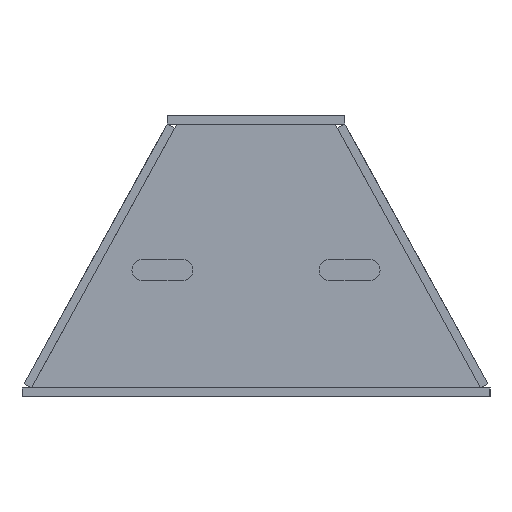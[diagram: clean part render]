
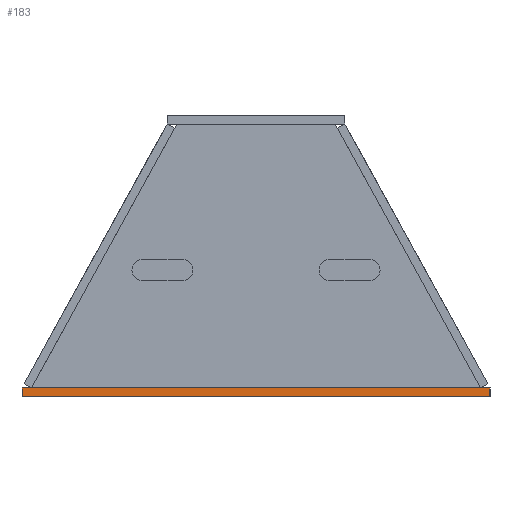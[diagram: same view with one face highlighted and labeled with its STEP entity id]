
A CAD part, left-side view. The second image highlights one B-rep face of the part: STEP entity #183.
In plain terms, the highlighted planar face has unit normal (-1, 0, 0).
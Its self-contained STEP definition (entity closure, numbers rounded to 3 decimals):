
#67 = EDGE_CURVE('',#68,#70,#72,.T.);
#68 = VERTEX_POINT('',#69);
#69 = CARTESIAN_POINT('',(-600.,-500.,0.));
#70 = VERTEX_POINT('',#71);
#71 = CARTESIAN_POINT('',(-600.,-500.,18.));
#72 = SURFACE_CURVE('',#73,(#77,#89),.PCURVE_S1.);
#73 = LINE('',#74,#75);
#74 = CARTESIAN_POINT('',(-600.,-500.,0.));
#75 = VECTOR('',#76,1.);
#76 = DIRECTION('',(0.,0.,1.));
#77 = PCURVE('',#78,#83);
#78 = PLANE('',#79);
#79 = AXIS2_PLACEMENT_3D('',#80,#81,#82);
#80 = CARTESIAN_POINT('',(-600.,-500.,0.));
#81 = DIRECTION('',(0.,1.,0.));
#82 = DIRECTION('',(1.,0.,0.));
#83 = DEFINITIONAL_REPRESENTATION('',(#84),#88);
#84 = LINE('',#85,#86);
#85 = CARTESIAN_POINT('',(0.,0.));
#86 = VECTOR('',#87,1.);
#87 = DIRECTION('',(0.,-1.));
#88 = ( GEOMETRIC_REPRESENTATION_CONTEXT(2) 
PARAMETRIC_REPRESENTATION_CONTEXT() REPRESENTATION_CONTEXT('2D SPACE',''
  ) );
#89 = PCURVE('',#90,#95);
#90 = PLANE('',#91);
#91 = AXIS2_PLACEMENT_3D('',#92,#93,#94);
#92 = CARTESIAN_POINT('',(-600.,500.,0.));
#93 = DIRECTION('',(1.,0.,-0.));
#94 = DIRECTION('',(0.,-1.,0.));
#95 = DEFINITIONAL_REPRESENTATION('',(#96),#100);
#96 = LINE('',#97,#98);
#97 = CARTESIAN_POINT('',(1000.,0.));
#98 = VECTOR('',#99,1.);
#99 = DIRECTION('',(0.,-1.));
#100 = ( GEOMETRIC_REPRESENTATION_CONTEXT(2) 
PARAMETRIC_REPRESENTATION_CONTEXT() REPRESENTATION_CONTEXT('2D SPACE',''
  ) );
#118 = PLANE('',#119);
#119 = AXIS2_PLACEMENT_3D('',#120,#121,#122);
#120 = CARTESIAN_POINT('',(0.,0.,18.));
#121 = DIRECTION('',(0.,0.,1.));
#122 = DIRECTION('',(1.,0.,-0.));
#172 = PLANE('',#173);
#173 = AXIS2_PLACEMENT_3D('',#174,#175,#176);
#174 = CARTESIAN_POINT('',(0.,0.,0.));
#175 = DIRECTION('',(0.,0.,1.));
#176 = DIRECTION('',(1.,0.,-0.));
#183 = ADVANCED_FACE('',(#184),#90,.F.);
#184 = FACE_BOUND('',#185,.F.);
#185 = EDGE_LOOP('',(#186,#216,#237,#238));
#186 = ORIENTED_EDGE('',*,*,#187,.T.);
#187 = EDGE_CURVE('',#188,#190,#192,.T.);
#188 = VERTEX_POINT('',#189);
#189 = CARTESIAN_POINT('',(-600.,500.,0.));
#190 = VERTEX_POINT('',#191);
#191 = CARTESIAN_POINT('',(-600.,500.,18.));
#192 = SURFACE_CURVE('',#193,(#197,#204),.PCURVE_S1.);
#193 = LINE('',#194,#195);
#194 = CARTESIAN_POINT('',(-600.,500.,0.));
#195 = VECTOR('',#196,1.);
#196 = DIRECTION('',(0.,0.,1.));
#197 = PCURVE('',#90,#198);
#198 = DEFINITIONAL_REPRESENTATION('',(#199),#203);
#199 = LINE('',#200,#201);
#200 = CARTESIAN_POINT('',(0.,0.));
#201 = VECTOR('',#202,1.);
#202 = DIRECTION('',(0.,-1.));
#203 = ( GEOMETRIC_REPRESENTATION_CONTEXT(2) 
PARAMETRIC_REPRESENTATION_CONTEXT() REPRESENTATION_CONTEXT('2D SPACE',''
  ) );
#204 = PCURVE('',#205,#210);
#205 = PLANE('',#206);
#206 = AXIS2_PLACEMENT_3D('',#207,#208,#209);
#207 = CARTESIAN_POINT('',(600.,500.,0.));
#208 = DIRECTION('',(0.,-1.,0.));
#209 = DIRECTION('',(-1.,0.,0.));
#210 = DEFINITIONAL_REPRESENTATION('',(#211),#215);
#211 = LINE('',#212,#213);
#212 = CARTESIAN_POINT('',(1200.,0.));
#213 = VECTOR('',#214,1.);
#214 = DIRECTION('',(0.,-1.));
#215 = ( GEOMETRIC_REPRESENTATION_CONTEXT(2) 
PARAMETRIC_REPRESENTATION_CONTEXT() REPRESENTATION_CONTEXT('2D SPACE',''
  ) );
#216 = ORIENTED_EDGE('',*,*,#217,.T.);
#217 = EDGE_CURVE('',#190,#70,#218,.T.);
#218 = SURFACE_CURVE('',#219,(#223,#230),.PCURVE_S1.);
#219 = LINE('',#220,#221);
#220 = CARTESIAN_POINT('',(-600.,500.,18.));
#221 = VECTOR('',#222,1.);
#222 = DIRECTION('',(0.,-1.,0.));
#223 = PCURVE('',#90,#224);
#224 = DEFINITIONAL_REPRESENTATION('',(#225),#229);
#225 = LINE('',#226,#227);
#226 = CARTESIAN_POINT('',(0.,-18.));
#227 = VECTOR('',#228,1.);
#228 = DIRECTION('',(1.,0.));
#229 = ( GEOMETRIC_REPRESENTATION_CONTEXT(2) 
PARAMETRIC_REPRESENTATION_CONTEXT() REPRESENTATION_CONTEXT('2D SPACE',''
  ) );
#230 = PCURVE('',#118,#231);
#231 = DEFINITIONAL_REPRESENTATION('',(#232),#236);
#232 = LINE('',#233,#234);
#233 = CARTESIAN_POINT('',(-600.,500.));
#234 = VECTOR('',#235,1.);
#235 = DIRECTION('',(0.,-1.));
#236 = ( GEOMETRIC_REPRESENTATION_CONTEXT(2) 
PARAMETRIC_REPRESENTATION_CONTEXT() REPRESENTATION_CONTEXT('2D SPACE',''
  ) );
#237 = ORIENTED_EDGE('',*,*,#67,.F.);
#238 = ORIENTED_EDGE('',*,*,#239,.F.);
#239 = EDGE_CURVE('',#188,#68,#240,.T.);
#240 = SURFACE_CURVE('',#241,(#245,#252),.PCURVE_S1.);
#241 = LINE('',#242,#243);
#242 = CARTESIAN_POINT('',(-600.,500.,0.));
#243 = VECTOR('',#244,1.);
#244 = DIRECTION('',(0.,-1.,0.));
#245 = PCURVE('',#90,#246);
#246 = DEFINITIONAL_REPRESENTATION('',(#247),#251);
#247 = LINE('',#248,#249);
#248 = CARTESIAN_POINT('',(0.,0.));
#249 = VECTOR('',#250,1.);
#250 = DIRECTION('',(1.,0.));
#251 = ( GEOMETRIC_REPRESENTATION_CONTEXT(2) 
PARAMETRIC_REPRESENTATION_CONTEXT() REPRESENTATION_CONTEXT('2D SPACE',''
  ) );
#252 = PCURVE('',#172,#253);
#253 = DEFINITIONAL_REPRESENTATION('',(#254),#258);
#254 = LINE('',#255,#256);
#255 = CARTESIAN_POINT('',(-600.,500.));
#256 = VECTOR('',#257,1.);
#257 = DIRECTION('',(0.,-1.));
#258 = ( GEOMETRIC_REPRESENTATION_CONTEXT(2) 
PARAMETRIC_REPRESENTATION_CONTEXT() REPRESENTATION_CONTEXT('2D SPACE',''
  ) );
